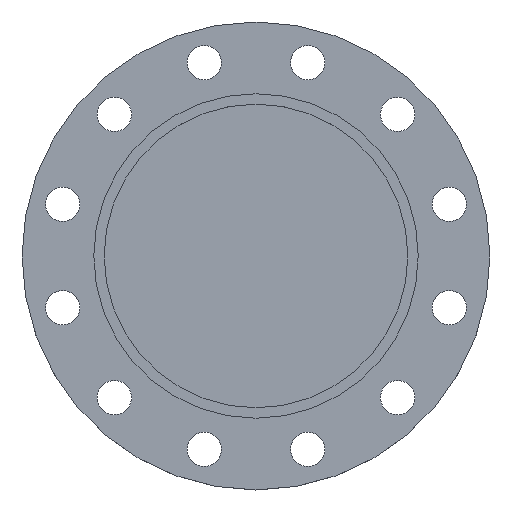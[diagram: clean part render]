
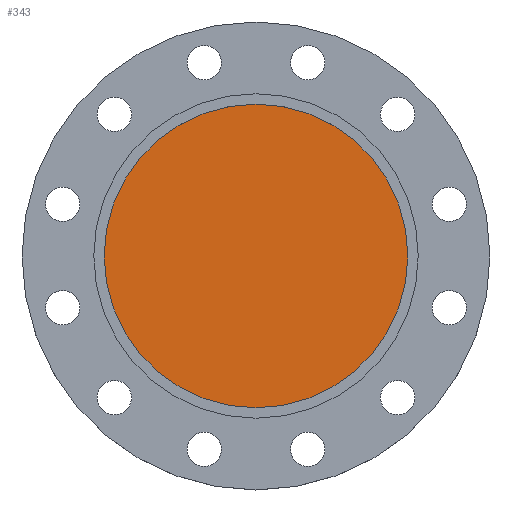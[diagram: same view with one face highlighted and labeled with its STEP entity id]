
A CAD part, top view. The second image highlights one B-rep face of the part: STEP entity #343.
In plain terms, the highlighted planar face has unit normal (0, 0, 1).
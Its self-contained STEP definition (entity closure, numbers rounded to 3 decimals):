
#2 = CIRCLE ( 'NONE', #5, 146. ) ;
#5 = AXIS2_PLACEMENT_3D ( 'NONE', #154, #153, #1013 ) ;
#9 = CIRCLE ( 'NONE', #853, 146. ) ;
#153 = DIRECTION ( 'NONE',  ( 0., 0., -1. ) ) ;
#154 = CARTESIAN_POINT ( 'NONE',  ( 0., 0., -5. ) ) ;
#336 = CARTESIAN_POINT ( 'NONE',  ( -146., 0., -5. ) ) ;
#340 = CARTESIAN_POINT ( 'NONE',  ( 146., 0., -5. ) ) ;
#343 = ADVANCED_FACE ( 'NONE', ( #558 ), #557, .T. ) ;
#476 = DIRECTION ( 'NONE',  ( -1., 0., 0. ) ) ;
#477 = DIRECTION ( 'NONE',  ( 0., 0., -1. ) ) ;
#478 = CARTESIAN_POINT ( 'NONE',  ( 0., 0., -5. ) ) ;
#554 = DIRECTION ( 'NONE',  ( 1., 0., 0. ) ) ;
#555 = DIRECTION ( 'NONE',  ( 0., 0., 1. ) ) ;
#556 = CARTESIAN_POINT ( 'NONE',  ( 146., 0., -5. ) ) ;
#557 = PLANE ( 'NONE',  #705 ) ;
#558 = FACE_OUTER_BOUND ( 'NONE', #769, .T. ) ;
#692 = EDGE_CURVE ( 'NONE', #890, #896, #9, .T. ) ;
#705 = AXIS2_PLACEMENT_3D ( 'NONE', #556, #555, #554 ) ;
#714 = ORIENTED_EDGE ( 'NONE', *, *, #1009, .F. ) ;
#715 = ORIENTED_EDGE ( 'NONE', *, *, #692, .F. ) ;
#769 = EDGE_LOOP ( 'NONE', ( #714, #715 ) ) ;
#853 = AXIS2_PLACEMENT_3D ( 'NONE', #478, #477, #476 ) ;
#890 = VERTEX_POINT ( 'NONE', #340 ) ;
#896 = VERTEX_POINT ( 'NONE', #336 ) ;
#1009 = EDGE_CURVE ( 'NONE', #896, #890, #2, .T. ) ;
#1013 = DIRECTION ( 'NONE',  ( -1., 0., 0. ) ) ;
